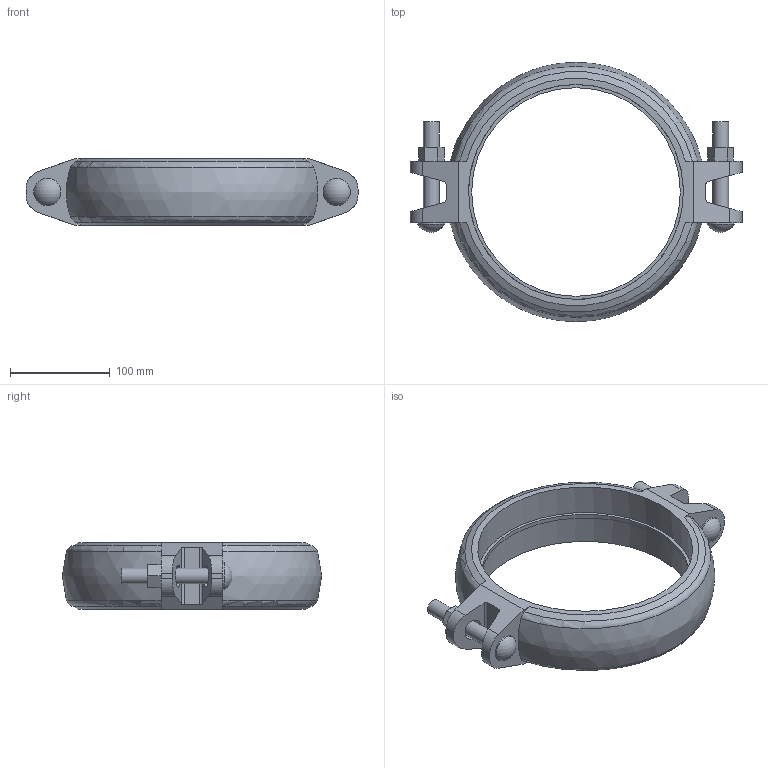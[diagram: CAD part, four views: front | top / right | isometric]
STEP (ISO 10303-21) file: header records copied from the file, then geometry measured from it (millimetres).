
FILE_DESCRIPTION(/* description */ ('VICTAULIC STYLE 009N FIRELOCK EZ RIGID COUPLING','CAx-IF Rec.Pracs.---Representation and Presentation of Product Manufacturing Information (PMI)---4.0---2014-10-13'),/* implementation_level */ '2;1');
FILE_NAME(/* name */ 'C:\Users\Vjadhav\AppData\Roaming\Autodesk\ApplicationPlugins\Victaulic.Temp\A361\Victaulic_FP-FireLock_Coupling Rigid_IR_Style 009N (OGS)_08.0 (216.0) (200).stp',/* time_stamp */ '2022-03-23T18:55:44+05:00',/* author */ ('Vjadhav'),/* organization */ ('Victaulic'),/* preprocessor_version */ 'ST-DEVELOPER v17.2',/* originating_system */ 'Autodesk Inventor 2019',/* authorisation */ '');
FILE_SCHEMA (('AP242_MANAGED_MODEL_BASED_3D_ENGINEERING_MIM_LF { 1 0 10303 442 1 1 4 }'));
Length unit declared in the file: inch
Products named in the file (2): 009N-08.0 (216); 009N-08.5 (216)
Assembly tree (1 placements, depth 2):
  009N-08.0 (216)
    009N-08.5 (216)
Bounding box: 333.5 x 260.35 x 66.8 mm (x, y, z)
Volume: 1121249.8 mm3; surface area: 154378.6 mm2
Topology: 1 solids, 1 shells, 91 faces, 255 edges, 174 vertices
Faces by surface type: plane 50, cylinder 29, cone 4, torus 4, sphere 2, bspline 2
Full cylindrical faces by diameter (mm): 15.875 x4, 27.381 x2, 209.55 x1, 215.9 x2
Entity records: 3315 total; most frequent: CARTESIAN_POINT 723, ORIENTED_EDGE 510, DIRECTION 509, EDGE_CURVE 255, AXIS2_PLACEMENT_3D 182, VERTEX_POINT 174, LINE 145, VECTOR 145
